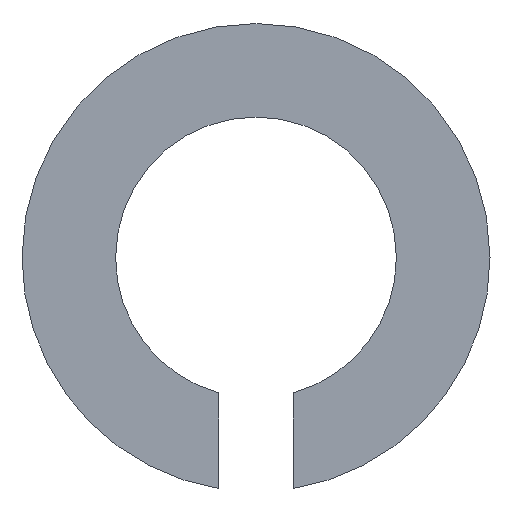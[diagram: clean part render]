
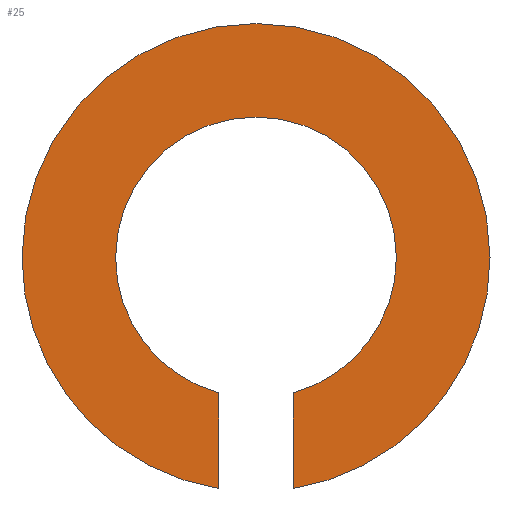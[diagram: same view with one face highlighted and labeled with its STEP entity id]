
A CAD part, left-side view. The second image highlights one B-rep face of the part: STEP entity #25.
In plain terms, the highlighted planar face has unit normal (-1, 0, 0).
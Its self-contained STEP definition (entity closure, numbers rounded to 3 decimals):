
#3 = CIRCLE ( 'NONE', #16, 2.5 ) ;
#4 = ORIENTED_EDGE ( 'NONE', *, *, #5, .F. ) ;
#5 = EDGE_CURVE ( 'NONE', #59, #239, #361, .T. ) ;
#13 = CARTESIAN_POINT ( 'NONE',  ( 0., 0., 0. ) ) ;
#16 = AXIS2_PLACEMENT_3D ( 'NONE', #13, #221, #341 ) ;
#19 = DIRECTION ( 'NONE',  ( -1., 0., 0. ) ) ;
#25 = ADVANCED_FACE ( 'NONE', ( #125 ), #303, .F. ) ;
#29 = VERTEX_POINT ( 'NONE', #362 ) ;
#43 = CARTESIAN_POINT ( 'NONE',  ( 0., 0.4, -1.446 ) ) ;
#47 = ORIENTED_EDGE ( 'NONE', *, *, #236, .F. ) ;
#50 = DIRECTION ( 'NONE',  ( 0., -0.267, -0.964 ) ) ;
#53 = CARTESIAN_POINT ( 'NONE',  ( 0., 0., 0. ) ) ;
#59 = VERTEX_POINT ( 'NONE', #43 ) ;
#60 = CARTESIAN_POINT ( 'NONE',  ( 0., 0.4, -1.446 ) ) ;
#62 = CIRCLE ( 'NONE', #378, 1.5 ) ;
#64 = VERTEX_POINT ( 'NONE', #105 ) ;
#65 = ORIENTED_EDGE ( 'NONE', *, *, #269, .F. ) ;
#67 = VERTEX_POINT ( 'NONE', #306 ) ;
#69 = CARTESIAN_POINT ( 'NONE',  ( 0., -0.4, -2.468 ) ) ;
#73 = EDGE_LOOP ( 'NONE', ( #268, #47, #128, #339, #329, #4, #161, #65 ) ) ;
#81 = CARTESIAN_POINT ( 'NONE',  ( 0., 0.4, -2.468 ) ) ;
#82 = CARTESIAN_POINT ( 'NONE',  ( 0., -0.4, -2.468 ) ) ;
#87 = EDGE_CURVE ( 'NONE', #239, #228, #3, .T. ) ;
#105 = CARTESIAN_POINT ( 'NONE',  ( 0., -0.4, -1.446 ) ) ;
#111 = EDGE_CURVE ( 'NONE', #29, #59, #62, .T. ) ;
#112 = DIRECTION ( 'NONE',  ( 0., 0.16, -0.987 ) ) ;
#125 = FACE_OUTER_BOUND ( 'NONE', #73, .T. ) ;
#128 = ORIENTED_EDGE ( 'NONE', *, *, #302, .F. ) ;
#130 = DIRECTION ( 'NONE',  ( 0., 1., 0. ) ) ;
#143 = DIRECTION ( 'NONE',  ( 0., 0.16, -0.987 ) ) ;
#149 = CIRCLE ( 'NONE', #360, 1.5 ) ;
#155 = AXIS2_PLACEMENT_3D ( 'NONE', #293, #294, #112 ) ;
#160 = VERTEX_POINT ( 'NONE', #69 ) ;
#161 = ORIENTED_EDGE ( 'NONE', *, *, #111, .F. ) ;
#167 = CARTESIAN_POINT ( 'NONE',  ( 0., 0., 0. ) ) ;
#170 = EDGE_CURVE ( 'NONE', #64, #67, #149, .T. ) ;
#198 = LINE ( 'NONE', #82, #319 ) ;
#200 = AXIS2_PLACEMENT_3D ( 'NONE', #53, #235, #143 ) ;
#201 = CIRCLE ( 'NONE', #321, 1.5 ) ;
#211 = CARTESIAN_POINT ( 'NONE',  ( 0., 0., 0. ) ) ;
#218 = DIRECTION ( 'NONE',  ( -1., 0., 0. ) ) ;
#221 = DIRECTION ( 'NONE',  ( 1., 0., 0. ) ) ;
#228 = VERTEX_POINT ( 'NONE', #308 ) ;
#235 = DIRECTION ( 'NONE',  ( 1., 0., 0. ) ) ;
#236 = EDGE_CURVE ( 'NONE', #160, #64, #198, .T. ) ;
#237 = DIRECTION ( 'NONE',  ( 1., 0., 0. ) ) ;
#239 = VERTEX_POINT ( 'NONE', #81 ) ;
#256 = DIRECTION ( 'NONE',  ( -1., 0., 0. ) ) ;
#258 = DIRECTION ( 'NONE',  ( 0., 0., 1. ) ) ;
#266 = CIRCLE ( 'NONE', #155, 2.5 ) ;
#267 = CIRCLE ( 'NONE', #200, 2.5 ) ;
#268 = ORIENTED_EDGE ( 'NONE', *, *, #170, .F. ) ;
#269 = EDGE_CURVE ( 'NONE', #67, #29, #201, .T. ) ;
#270 = VERTEX_POINT ( 'NONE', #292 ) ;
#292 = CARTESIAN_POINT ( 'NONE',  ( 0., -2.5, 0. ) ) ;
#293 = CARTESIAN_POINT ( 'NONE',  ( 0., 0., 0. ) ) ;
#294 = DIRECTION ( 'NONE',  ( 1., 0., 0. ) ) ;
#302 = EDGE_CURVE ( 'NONE', #270, #160, #267, .T. ) ;
#303 = PLANE ( 'NONE',  #347 ) ;
#306 = CARTESIAN_POINT ( 'NONE',  ( 0., -1.5, 0. ) ) ;
#308 = CARTESIAN_POINT ( 'NONE',  ( 0., 2.5, 0. ) ) ;
#317 = EDGE_CURVE ( 'NONE', #228, #270, #266, .T. ) ;
#319 = VECTOR ( 'NONE', #258, 1000. ) ;
#320 = CARTESIAN_POINT ( 'NONE',  ( 0., 0., 0. ) ) ;
#321 = AXIS2_PLACEMENT_3D ( 'NONE', #320, #19, #50 ) ;
#328 = DIRECTION ( 'NONE',  ( 0., 0., -1. ) ) ;
#329 = ORIENTED_EDGE ( 'NONE', *, *, #87, .F. ) ;
#334 = DIRECTION ( 'NONE',  ( 0., -0.267, -0.964 ) ) ;
#339 = ORIENTED_EDGE ( 'NONE', *, *, #317, .F. ) ;
#341 = DIRECTION ( 'NONE',  ( 0., 0.16, -0.987 ) ) ;
#347 = AXIS2_PLACEMENT_3D ( 'NONE', #354, #237, #130 ) ;
#354 = CARTESIAN_POINT ( 'NONE',  ( 0., 0., 0. ) ) ;
#360 = AXIS2_PLACEMENT_3D ( 'NONE', #211, #256, #373 ) ;
#361 = LINE ( 'NONE', #60, #366 ) ;
#362 = CARTESIAN_POINT ( 'NONE',  ( 0., 1.5, 0. ) ) ;
#366 = VECTOR ( 'NONE', #328, 1000. ) ;
#373 = DIRECTION ( 'NONE',  ( 0., -0.267, -0.964 ) ) ;
#378 = AXIS2_PLACEMENT_3D ( 'NONE', #167, #218, #334 ) ;
